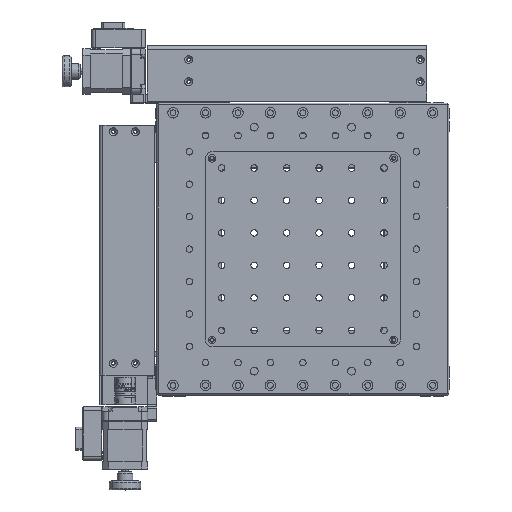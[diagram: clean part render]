
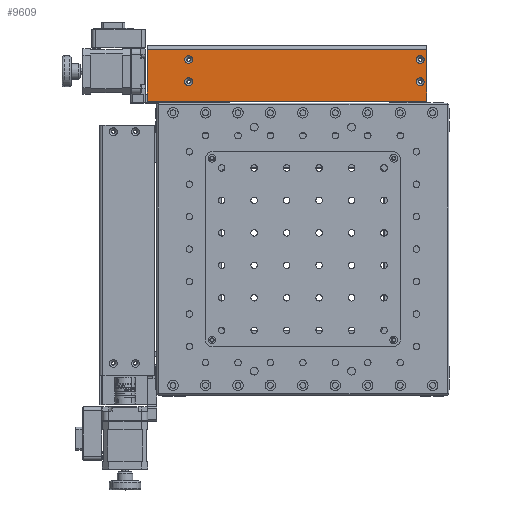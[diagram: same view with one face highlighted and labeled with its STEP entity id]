
A CAD part, top view. The second image highlights one B-rep face of the part: STEP entity #9609.
In plain terms, the highlighted planar face has unit normal (0, 0, 1).
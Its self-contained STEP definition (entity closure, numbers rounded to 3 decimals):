
#1696 = EDGE_CURVE ( 'NONE', #3602, #34138, #55262, .T. ) ;
#2026 = VERTEX_POINT ( 'NONE', #29440 ) ;
#3602 = VERTEX_POINT ( 'NONE', #18073 ) ;
#3858 = AXIS2_PLACEMENT_3D ( 'NONE', #41585, #60849, #31533 ) ;
#4784 = ORIENTED_EDGE ( 'NONE', *, *, #38656, .F. ) ;
#4827 = CARTESIAN_POINT ( 'NONE',  ( 82.371, 247.642, 226.205 ) ) ;
#5000 = ORIENTED_EDGE ( 'NONE', *, *, #15485, .T. ) ;
#6117 = CIRCLE ( 'NONE', #31313, 3. ) ;
#7225 = AXIS2_PLACEMENT_3D ( 'NONE', #43995, #49271, #14884 ) ;
#8475 = DIRECTION ( 'NONE',  ( 1., 0., 0. ) ) ;
#8506 = FACE_BOUND ( 'NONE', #47648, .T. ) ;
#9602 = VERTEX_POINT ( 'NONE', #29987 ) ;
#9609 = ADVANCED_FACE ( 'NONE', ( #28243, #8506, #25988, #44267, #13093 ), #53579, .F. ) ;
#9935 = CARTESIAN_POINT ( 'NONE',  ( -101.129, 239.642, 226.205 ) ) ;
#10608 = CARTESIAN_POINT ( 'NONE',  ( 77.371, 239.642, 226.205 ) ) ;
#10796 = ORIENTED_EDGE ( 'NONE', *, *, #48676, .T. ) ;
#10928 = VECTOR ( 'NONE', #51789, 1000. ) ;
#11093 = EDGE_CURVE ( 'NONE', #57127, #46640, #6117, .T. ) ;
#13093 = FACE_BOUND ( 'NONE', #29644, .T. ) ;
#13300 = LINE ( 'NONE', #18061, #49744 ) ;
#14056 = EDGE_CURVE ( 'NONE', #35640, #23756, #55996, .T. ) ;
#14884 = DIRECTION ( 'NONE',  ( 0., -1., 0. ) ) ;
#14978 = AXIS2_PLACEMENT_3D ( 'NONE', #34034, #24261, #15369 ) ;
#15369 = DIRECTION ( 'NONE',  ( 0., 1., 0. ) ) ;
#15485 = EDGE_CURVE ( 'NONE', #9602, #2026, #13300, .T. ) ;
#15534 = CIRCLE ( 'NONE', #7225, 3. ) ;
#16830 = CIRCLE ( 'NONE', #3858, 3. ) ;
#17191 = CARTESIAN_POINT ( 'NONE',  ( -101.129, 242.642, 226.205 ) ) ;
#17679 = EDGE_CURVE ( 'NONE', #46640, #57127, #45555, .T. ) ;
#18061 = CARTESIAN_POINT ( 'NONE',  ( -25.379, 207.642, 226.205 ) ) ;
#18073 = CARTESIAN_POINT ( 'NONE',  ( 77.371, 219.642, 226.205 ) ) ;
#18626 = CIRCLE ( 'NONE', #52211, 3. ) ;
#18997 = ORIENTED_EDGE ( 'NONE', *, *, #17679, .F. ) ;
#19713 = DIRECTION ( 'NONE',  ( 0., 0., 1. ) ) ;
#19938 = CIRCLE ( 'NONE', #55288, 3. ) ;
#20231 = CARTESIAN_POINT ( 'NONE',  ( -133.129, 248.642, 226.205 ) ) ;
#20595 = DIRECTION ( 'NONE',  ( 0., 0., 1. ) ) ;
#21422 = DIRECTION ( 'NONE',  ( 0., 0., 1. ) ) ;
#22050 = DIRECTION ( 'NONE',  ( 0., -1., 0. ) ) ;
#22659 = CARTESIAN_POINT ( 'NONE',  ( -101.129, 236.642, 226.205 ) ) ;
#23212 = CARTESIAN_POINT ( 'NONE',  ( -133.129, 247.642, 226.205 ) ) ;
#23615 = CARTESIAN_POINT ( 'NONE',  ( -101.129, 222.642, 226.205 ) ) ;
#23756 = VERTEX_POINT ( 'NONE', #27399 ) ;
#24158 = ORIENTED_EDGE ( 'NONE', *, *, #43607, .F. ) ;
#24261 = DIRECTION ( 'NONE',  ( 0., 0., -1. ) ) ;
#25988 = FACE_OUTER_BOUND ( 'NONE', #31743, .T. ) ;
#26892 = LINE ( 'NONE', #57305, #10928 ) ;
#27399 = CARTESIAN_POINT ( 'NONE',  ( 82.371, 247.642, 226.205 ) ) ;
#28243 = FACE_BOUND ( 'NONE', #34091, .T. ) ;
#28451 = VERTEX_POINT ( 'NONE', #22659 ) ;
#29412 = CARTESIAN_POINT ( 'NONE',  ( 77.371, 239.642, 226.205 ) ) ;
#29440 = CARTESIAN_POINT ( 'NONE',  ( 82.371, 207.642, 226.205 ) ) ;
#29644 = EDGE_LOOP ( 'NONE', ( #24158, #32627 ) ) ;
#29987 = CARTESIAN_POINT ( 'NONE',  ( -133.129, 207.642, 226.205 ) ) ;
#30866 = EDGE_LOOP ( 'NONE', ( #61987, #4784 ) ) ;
#31227 = VERTEX_POINT ( 'NONE', #45707 ) ;
#31313 = AXIS2_PLACEMENT_3D ( 'NONE', #10608, #20595, #54608 ) ;
#31533 = DIRECTION ( 'NONE',  ( 0., -1., 0. ) ) ;
#31743 = EDGE_LOOP ( 'NONE', ( #40333, #10796, #5000, #41123 ) ) ;
#32627 = ORIENTED_EDGE ( 'NONE', *, *, #59730, .F. ) ;
#32850 = DIRECTION ( 'NONE',  ( 0., 0., 1. ) ) ;
#33179 = DIRECTION ( 'NONE',  ( 0., 0., 1. ) ) ;
#34034 = CARTESIAN_POINT ( 'NONE',  ( -25.379, 248.642, 226.205 ) ) ;
#34091 = EDGE_LOOP ( 'NONE', ( #47635, #18997 ) ) ;
#34138 = VERTEX_POINT ( 'NONE', #57954 ) ;
#34936 = ORIENTED_EDGE ( 'NONE', *, *, #1696, .F. ) ;
#35640 = VERTEX_POINT ( 'NONE', #23212 ) ;
#36001 = ORIENTED_EDGE ( 'NONE', *, *, #52922, .F. ) ;
#38656 = EDGE_CURVE ( 'NONE', #40795, #28451, #19938, .T. ) ;
#38843 = DIRECTION ( 'NONE',  ( 0., -1., 0. ) ) ;
#39040 = DIRECTION ( 'NONE',  ( 0., -1., 0. ) ) ;
#39153 = AXIS2_PLACEMENT_3D ( 'NONE', #51185, #21422, #22050 ) ;
#39916 = DIRECTION ( 'NONE',  ( 0., -1., 0. ) ) ;
#40333 = ORIENTED_EDGE ( 'NONE', *, *, #14056, .F. ) ;
#40795 = VERTEX_POINT ( 'NONE', #17191 ) ;
#41123 = ORIENTED_EDGE ( 'NONE', *, *, #60054, .T. ) ;
#41585 = CARTESIAN_POINT ( 'NONE',  ( -101.129, 239.642, 226.205 ) ) ;
#41840 = CARTESIAN_POINT ( 'NONE',  ( 77.371, 242.642, 226.205 ) ) ;
#43009 = DIRECTION ( 'NONE',  ( 0., -1., 0. ) ) ;
#43109 = VECTOR ( 'NONE', #48619, 1000. ) ;
#43367 = VECTOR ( 'NONE', #58903, 1000. ) ;
#43607 = EDGE_CURVE ( 'NONE', #50699, #31227, #18626, .T. ) ;
#43995 = CARTESIAN_POINT ( 'NONE',  ( -101.129, 222.642, 226.205 ) ) ;
#44267 = FACE_BOUND ( 'NONE', #30866, .T. ) ;
#45555 = CIRCLE ( 'NONE', #50342, 3. ) ;
#45707 = CARTESIAN_POINT ( 'NONE',  ( -101.129, 225.642, 226.205 ) ) ;
#46640 = VERTEX_POINT ( 'NONE', #41840 ) ;
#46871 = EDGE_CURVE ( 'NONE', #28451, #40795, #16830, .T. ) ;
#47635 = ORIENTED_EDGE ( 'NONE', *, *, #11093, .F. ) ;
#47648 = EDGE_LOOP ( 'NONE', ( #34936, #36001 ) ) ;
#48619 = DIRECTION ( 'NONE',  ( 1., 0., 0. ) ) ;
#48676 = EDGE_CURVE ( 'NONE', #35640, #9602, #54737, .T. ) ;
#48761 = DIRECTION ( 'NONE',  ( 0., 0., 1. ) ) ;
#49271 = DIRECTION ( 'NONE',  ( 0., 0., 1. ) ) ;
#49744 = VECTOR ( 'NONE', #8475, 1000. ) ;
#50174 = AXIS2_PLACEMENT_3D ( 'NONE', #61958, #32850, #38843 ) ;
#50342 = AXIS2_PLACEMENT_3D ( 'NONE', #29412, #48761, #39040 ) ;
#50699 = VERTEX_POINT ( 'NONE', #59909 ) ;
#51185 = CARTESIAN_POINT ( 'NONE',  ( 77.371, 222.642, 226.205 ) ) ;
#51789 = DIRECTION ( 'NONE',  ( 0., 1., 0. ) ) ;
#52211 = AXIS2_PLACEMENT_3D ( 'NONE', #23615, #33179, #43009 ) ;
#52731 = CIRCLE ( 'NONE', #50174, 3. ) ;
#52922 = EDGE_CURVE ( 'NONE', #34138, #3602, #52731, .T. ) ;
#53579 = PLANE ( 'NONE',  #14978 ) ;
#54608 = DIRECTION ( 'NONE',  ( 0., -1., 0. ) ) ;
#54737 = LINE ( 'NONE', #20231, #43367 ) ;
#55262 = CIRCLE ( 'NONE', #39153, 3. ) ;
#55288 = AXIS2_PLACEMENT_3D ( 'NONE', #9935, #19713, #39916 ) ;
#55996 = LINE ( 'NONE', #4827, #43109 ) ;
#57127 = VERTEX_POINT ( 'NONE', #62342 ) ;
#57305 = CARTESIAN_POINT ( 'NONE',  ( 82.371, 248.642, 226.205 ) ) ;
#57954 = CARTESIAN_POINT ( 'NONE',  ( 77.371, 225.642, 226.205 ) ) ;
#58903 = DIRECTION ( 'NONE',  ( 0., -1., 0. ) ) ;
#59730 = EDGE_CURVE ( 'NONE', #31227, #50699, #15534, .T. ) ;
#59909 = CARTESIAN_POINT ( 'NONE',  ( -101.129, 219.642, 226.205 ) ) ;
#60054 = EDGE_CURVE ( 'NONE', #2026, #23756, #26892, .T. ) ;
#60849 = DIRECTION ( 'NONE',  ( 0., 0., 1. ) ) ;
#61958 = CARTESIAN_POINT ( 'NONE',  ( 77.371, 222.642, 226.205 ) ) ;
#61987 = ORIENTED_EDGE ( 'NONE', *, *, #46871, .F. ) ;
#62342 = CARTESIAN_POINT ( 'NONE',  ( 77.371, 236.642, 226.205 ) ) ;
